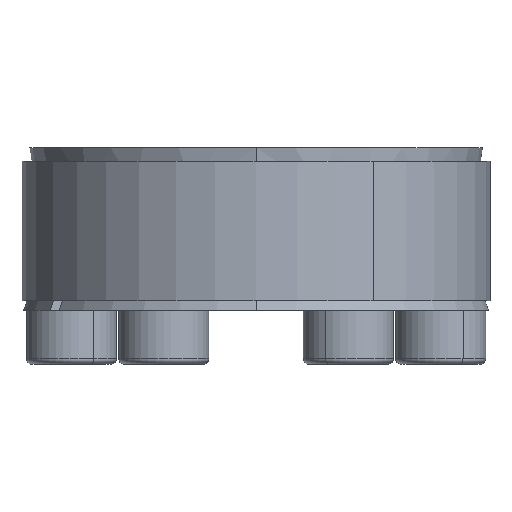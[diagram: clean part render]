
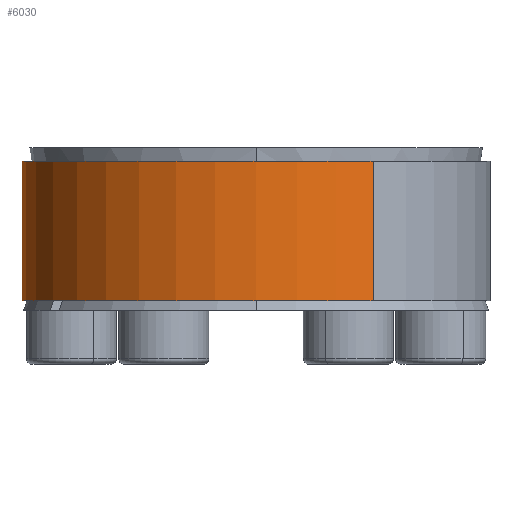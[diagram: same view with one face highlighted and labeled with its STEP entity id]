
A CAD part, left-side view. The second image highlights one B-rep face of the part: STEP entity #6030.
In plain terms, the highlighted cylindrical face has radius 25.985 mm (diameter 51.97 mm), a partial arc.
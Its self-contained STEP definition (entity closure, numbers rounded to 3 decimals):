
#686 = VERTEX_POINT ( 'NONE', #2653 ) ;
#805 = ORIENTED_EDGE ( 'NONE', *, *, #2958, .F. ) ;
#1097 = LINE ( 'NONE', #3358, #8861 ) ;
#1377 = CARTESIAN_POINT ( 'NONE',  ( -22.504, -12.993, 16.527 ) ) ;
#1392 = DIRECTION ( 'NONE',  ( 0., 0., -1. ) ) ;
#2099 = CARTESIAN_POINT ( 'NONE',  ( 0., 0., 1.027 ) ) ;
#2191 = CARTESIAN_POINT ( 'NONE',  ( -22.504, -12.993, 1.027 ) ) ;
#2318 = ORIENTED_EDGE ( 'NONE', *, *, #2704, .F. ) ;
#2474 = EDGE_LOOP ( 'NONE', ( #2318, #805, #9112, #4106 ) ) ;
#2523 = CARTESIAN_POINT ( 'NONE',  ( 0., 0., 16.527 ) ) ;
#2653 = CARTESIAN_POINT ( 'NONE',  ( 22.504, 12.993, 1.027 ) ) ;
#2704 = EDGE_CURVE ( 'NONE', #9399, #3271, #1097, .T. ) ;
#2867 = DIRECTION ( 'NONE',  ( -0.866, -0.5, 0. ) ) ;
#2958 = EDGE_CURVE ( 'NONE', #4567, #9399, #9222, .T. ) ;
#3165 = AXIS2_PLACEMENT_3D ( 'NONE', #2099, #7367, #2867 ) ;
#3270 = DIRECTION ( 'NONE',  ( 0., 0., -1. ) ) ;
#3271 = VERTEX_POINT ( 'NONE', #2191 ) ;
#3358 = CARTESIAN_POINT ( 'NONE',  ( -22.504, -12.993, 16.527 ) ) ;
#3472 = LINE ( 'NONE', #8150, #9488 ) ;
#3917 = CARTESIAN_POINT ( 'NONE',  ( 0., 0., 16.527 ) ) ;
#4106 = ORIENTED_EDGE ( 'NONE', *, *, #9333, .T. ) ;
#4567 = VERTEX_POINT ( 'NONE', #5053 ) ;
#4697 = DIRECTION ( 'NONE',  ( -0.866, -0.5, 0. ) ) ;
#5053 = CARTESIAN_POINT ( 'NONE',  ( 22.504, 12.993, 16.527 ) ) ;
#5520 = AXIS2_PLACEMENT_3D ( 'NONE', #2523, #3270, #6310 ) ;
#5643 = DIRECTION ( 'NONE',  ( 0., 0., -1. ) ) ;
#5778 = EDGE_CURVE ( 'NONE', #4567, #686, #3472, .T. ) ;
#5826 = CIRCLE ( 'NONE', #3165, 25.985 ) ;
#6017 = FACE_OUTER_BOUND ( 'NONE', #2474, .T. ) ;
#6030 = ADVANCED_FACE ( 'NONE', ( #6017 ), #7076, .T. ) ;
#6209 = AXIS2_PLACEMENT_3D ( 'NONE', #3917, #9198, #4697 ) ;
#6310 = DIRECTION ( 'NONE',  ( 0.866, 0.5, 0. ) ) ;
#7076 = CYLINDRICAL_SURFACE ( 'NONE', #5520, 25.985 ) ;
#7367 = DIRECTION ( 'NONE',  ( 0., 0., 1. ) ) ;
#8150 = CARTESIAN_POINT ( 'NONE',  ( 22.504, 12.993, 16.527 ) ) ;
#8861 = VECTOR ( 'NONE', #5643, 1000. ) ;
#9112 = ORIENTED_EDGE ( 'NONE', *, *, #5778, .T. ) ;
#9198 = DIRECTION ( 'NONE',  ( 0., 0., 1. ) ) ;
#9222 = CIRCLE ( 'NONE', #6209, 25.985 ) ;
#9333 = EDGE_CURVE ( 'NONE', #686, #3271, #5826, .T. ) ;
#9399 = VERTEX_POINT ( 'NONE', #1377 ) ;
#9488 = VECTOR ( 'NONE', #1392, 1000. ) ;
